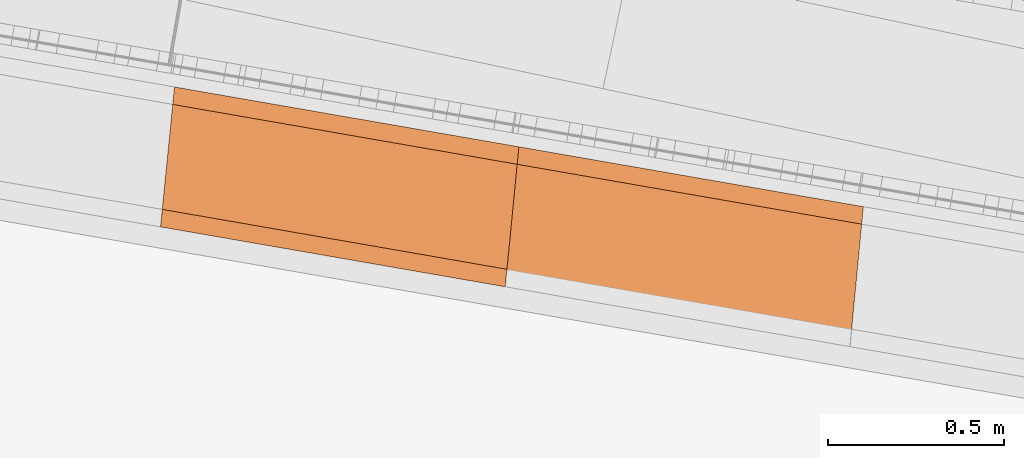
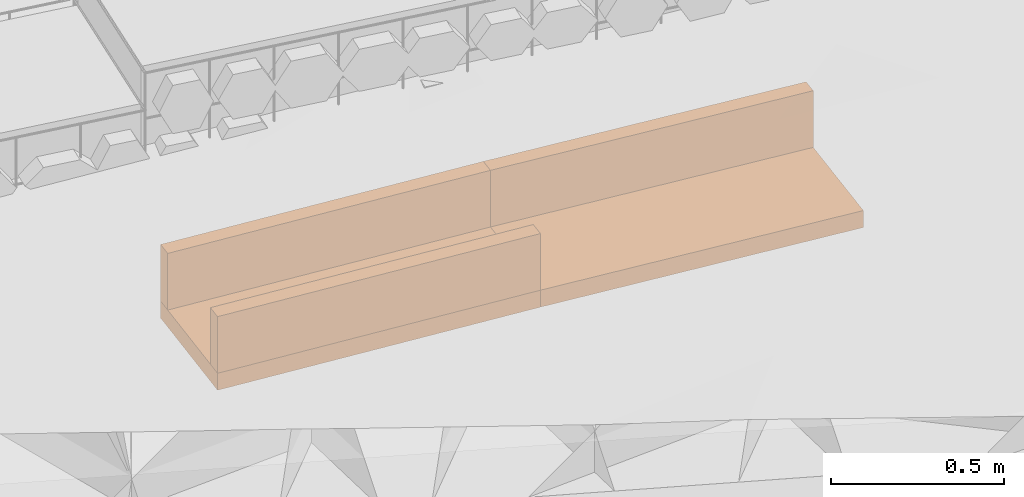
# Not in any storey, part 43 of 45: 5 proxies.
"""IFC4 model written with IfcOpenShell, lengths in metres."""

from ifc_helpers import new_model, si_unit, direction, frame, origin_with_axes, place, context, subcontext, project, spatial, polygons, material, element, save


model = new_model("IFC4")

# Units and contexts
model_context = context("Model", 3, precision=1e-05, world=origin_with_axes(), true_north=direction((0.0, 1.0)))
body_context = subcontext(model_context, "Body", "Model", "MODEL_VIEW")
ifc_project = project(units=[si_unit("VOLUMEUNIT", "CUBIC_METRE"), si_unit("LENGTHUNIT", "METRE"), si_unit("AREAUNIT", "SQUARE_METRE")], contexts=[model_context])

# Site
site_placement = place(None, origin_with_axes())
site = spatial("IfcSite", under=ifc_project, at=site_placement, Name="Lares · Rua das Mercês · artigo 4771")

# Proxies
ifc_material = material(Name="Caleiras · betão", Category="concrete")
proxy_1_placement = place(site_placement, frame((0.0, 0.0, 0.0), z_axis=(0.0, 0.0, 1.0), x_axis=(1.0, -1.03767253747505e-17, 0.0)))
element("IfcBuildingElementProxy", 1, at=proxy_1_placement, inside=site, material=ifc_material, Name="Acesso · canal lateral", ObjectType="Acesso · canal lateral", PredefinedType="USERDEFINED", context=body_context, shape_type="Tessellation", body=[
    polygons([(77.3363047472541, 6.65652840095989, 15.6741706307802), (77.375807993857, 7.05457298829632, 15.6741706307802), (78.3558896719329, 6.88426861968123, 15.7277776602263), (78.31638642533, 6.4862240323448, 15.7277776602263), (77.3363047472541, 6.65652840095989, 15.7341706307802), (77.375807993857, 7.05457298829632, 15.7341706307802), (78.3558896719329, 6.88426861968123, 15.7877776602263), (78.31638642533, 6.4862240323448, 15.7877776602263)], [[[4, 3, 2, 1]], [[5, 6, 7, 8]], [[1, 2, 6, 5]], [[2, 3, 7, 6]], [[3, 4, 8, 7]], [[4, 1, 5, 8]]]),
])
proxy_2_placement = place(site_placement, frame((0.0, 0.0, 0.0), z_axis=(0.0, 0.0, 1.0), x_axis=(1.0, -1.03767253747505e-17, 0.0)))
element("IfcBuildingElementProxy", 2, at=proxy_2_placement, inside=site, material=ifc_material, Name="Acesso · canal lateral", ObjectType="Acesso · canal lateral", PredefinedType="USERDEFINED", context=body_context, shape_type="Tessellation", body=[
    polygons([(77.3363047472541, 6.65652840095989, 15.7341706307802), (77.3412426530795, 6.70628397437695, 15.7341706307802), (78.3213243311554, 6.53597960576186, 15.7877776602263), (78.31638642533, 6.4862240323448, 15.7877776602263), (77.3363047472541, 6.65652840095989, 15.9341706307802), (77.3412426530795, 6.70628397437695, 15.9341706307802), (78.3213243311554, 6.53597960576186, 15.9877776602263), (78.31638642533, 6.4862240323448, 15.9877776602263)], [[[4, 3, 2, 1]], [[5, 6, 7, 8]], [[1, 2, 6, 5]], [[2, 3, 7, 6]], [[3, 4, 8, 7]], [[4, 1, 5, 8]]]),
])
proxy_3_placement = place(site_placement, frame((0.0, 0.0, 0.0), z_axis=(0.0, 0.0, 1.0), x_axis=(1.0, -1.03767253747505e-17, 0.0)))
element("IfcBuildingElementProxy", 3, at=proxy_3_placement, inside=site, material=ifc_material, Name="Acesso · canal lateral", ObjectType="Acesso · canal lateral", PredefinedType="USERDEFINED", context=body_context, shape_type="Tessellation", body=[
    polygons([(77.3708700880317, 7.00481741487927, 15.7341706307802), (77.375807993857, 7.05457298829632, 15.7341706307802), (78.3558896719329, 6.88426861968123, 15.7877776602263), (78.3509517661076, 6.83451304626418, 15.7877776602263), (77.3708700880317, 7.00481741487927, 15.9341706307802), (77.375807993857, 7.05457298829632, 15.9341706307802), (78.3558896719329, 6.88426861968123, 15.9877776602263), (78.3509517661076, 6.83451304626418, 15.9877776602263)], [[[4, 3, 2, 1]], [[5, 6, 7, 8]], [[1, 2, 6, 5]], [[2, 3, 7, 6]], [[3, 4, 8, 7]], [[4, 1, 5, 8]]]),
])
proxy_4_placement = place(site_placement, frame((0.0, 0.0, 0.0), z_axis=(0.0, 0.0, 1.0), x_axis=(1.0, -1.03767253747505e-17, 0.0)))
element("IfcBuildingElementProxy", 4, at=proxy_4_placement, inside=site, material=ifc_material, Name="Acesso · canal lateral", ObjectType="Acesso · canal lateral", PredefinedType="USERDEFINED", context=body_context, shape_type="Tessellation", body=[
    polygons([(78.3168915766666, 6.48617454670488, 15.7277776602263), (78.3553845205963, 6.88431810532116, 15.7277776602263), (79.3354427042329, 6.71401435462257, 15.7690898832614), (79.2969497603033, 6.3158707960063, 15.7690898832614), (78.3168915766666, 6.48617454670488, 15.7877776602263), (78.3553845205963, 6.88431810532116, 15.7877776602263), (79.3354427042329, 6.71401435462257, 15.8290898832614), (79.2969497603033, 6.3158707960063, 15.8290898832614)], [[[4, 3, 2, 1]], [[5, 6, 7, 8]], [[1, 2, 6, 5]], [[2, 3, 7, 6]], [[3, 4, 8, 7]], [[4, 1, 5, 8]]]),
])
proxy_5_placement = place(site_placement, frame((0.0, 0.0, 0.0), z_axis=(0.0, 0.0, 1.0), x_axis=(1.0, -1.03767253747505e-17, 0.0)))
element("IfcBuildingElementProxy", 5, at=proxy_5_placement, inside=site, material=ifc_material, Name="Acesso · canal lateral", ObjectType="Acesso · canal lateral", PredefinedType="USERDEFINED", context=body_context, shape_type="Tessellation", body=[
    polygons([(78.3505729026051, 6.83455016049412, 15.7877776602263), (78.3553845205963, 6.88431810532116, 15.7877776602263), (79.3354427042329, 6.71401435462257, 15.8290898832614), (79.3306310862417, 6.66424640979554, 15.8290898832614), (78.3505729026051, 6.83455016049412, 15.9877776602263), (78.3553845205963, 6.88431810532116, 15.9877776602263), (79.3354427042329, 6.71401435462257, 16.0290898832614), (79.3306310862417, 6.66424640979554, 16.0290898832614)], [[[4, 3, 2, 1]], [[5, 6, 7, 8]], [[1, 2, 6, 5]], [[2, 3, 7, 6]], [[3, 4, 8, 7]], [[4, 1, 5, 8]]]),
])

save(model, "model.ifc")
